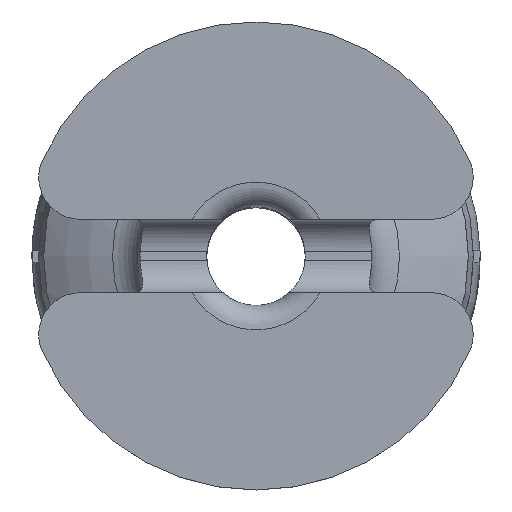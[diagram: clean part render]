
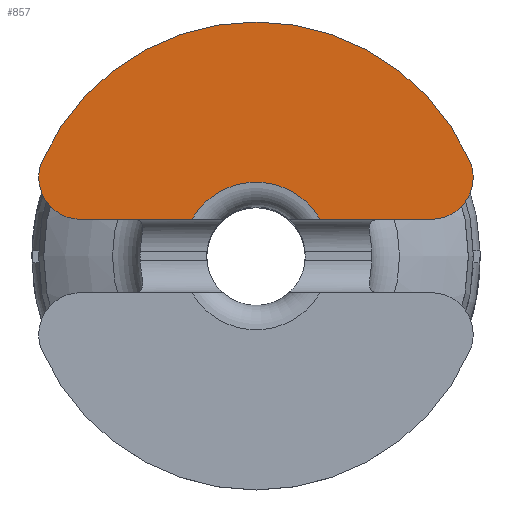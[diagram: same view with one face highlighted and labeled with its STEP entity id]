
A CAD part, top view. The second image highlights one B-rep face of the part: STEP entity #857.
In plain terms, the highlighted planar face has unit normal (0, 0, 1).
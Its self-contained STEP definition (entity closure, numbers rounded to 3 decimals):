
#789=CARTESIAN_POINT('',(0.,0.,-47.57));
#790=DIRECTION('',(0.,0.,-1.));
#791=DIRECTION('',(0.,1.,0.));
#792=AXIS2_PLACEMENT_3D('',#789,#790,#791);
#793=PLANE('',#792);
#794=CARTESIAN_POINT('',(-7.118,744.989,-47.57));
#795=VERTEX_POINT('',#794);
#796=CARTESIAN_POINT('',(-2.604,744.989,-47.57));
#797=VERTEX_POINT('',#796);
#798=CARTESIAN_POINT('',(-7.118,744.989,-47.57));
#799=DIRECTION('',(1.,0.,-0.));
#800=VECTOR('',#799,4.514);
#801=LINE('',#798,#800);
#802=EDGE_CURVE('',#795,#797,#801,.T.);
#803=ORIENTED_EDGE('',*,*,#802,.T.);
#804=CARTESIAN_POINT('',(2.604,744.989,-47.57));
#805=VERTEX_POINT('',#804);
#806=CARTESIAN_POINT('',(-0.,743.5,-47.57));
#807=DIRECTION('',(0.,0.,-1.));
#808=DIRECTION('',(-1.,0.,0.));
#809=AXIS2_PLACEMENT_3D('',#806,#807,#808);
#810=CIRCLE('',#809,3.);
#811=EDGE_CURVE('',#797,#805,#810,.T.);
#812=ORIENTED_EDGE('',*,*,#811,.T.);
#813=CARTESIAN_POINT('',(7.118,744.989,-47.57));
#814=VERTEX_POINT('',#813);
#815=CARTESIAN_POINT('',(2.604,744.989,-47.57));
#816=DIRECTION('',(1.,0.,-0.));
#817=VECTOR('',#816,4.514);
#818=LINE('',#815,#817);
#819=EDGE_CURVE('',#805,#814,#818,.T.);
#820=ORIENTED_EDGE('',*,*,#819,.T.);
#821=CARTESIAN_POINT('',(8.818,746.689,-47.57));
#822=VERTEX_POINT('',#821);
#823=CARTESIAN_POINT('',(7.118,746.689,-47.57));
#824=DIRECTION('',(-0.,-0.,1.));
#825=DIRECTION('',(-1.,0.,0.));
#826=AXIS2_PLACEMENT_3D('',#823,#824,#825);
#827=CIRCLE('',#826,1.7);
#828=EDGE_CURVE('',#814,#822,#827,.T.);
#829=ORIENTED_EDGE('',*,*,#828,.T.);
#830=CARTESIAN_POINT('',(8.67,747.385,-47.57));
#831=VERTEX_POINT('',#830);
#832=CARTESIAN_POINT('',(7.118,746.689,-47.57));
#833=DIRECTION('',(-0.,-0.,1.));
#834=DIRECTION('',(-1.,0.,0.));
#835=AXIS2_PLACEMENT_3D('',#832,#833,#834);
#836=CIRCLE('',#835,1.7);
#837=EDGE_CURVE('',#822,#831,#836,.T.);
#838=ORIENTED_EDGE('',*,*,#837,.T.);
#839=CARTESIAN_POINT('',(-8.67,747.385,-47.57));
#840=VERTEX_POINT('',#839);
#841=CARTESIAN_POINT('',(0.,743.5,-47.57));
#842=DIRECTION('',(0.,0.,-1.));
#843=DIRECTION('',(-0.,1.,0.));
#844=AXIS2_PLACEMENT_3D('',#841,#842,#843);
#845=CIRCLE('',#844,9.5);
#846=EDGE_CURVE('',#840,#831,#845,.T.);
#847=ORIENTED_EDGE('',*,*,#846,.F.);
#848=CARTESIAN_POINT('',(-7.118,746.689,-47.57));
#849=DIRECTION('',(-0.,-0.,1.));
#850=DIRECTION('',(-1.,0.,0.));
#851=AXIS2_PLACEMENT_3D('',#848,#849,#850);
#852=CIRCLE('',#851,1.7);
#853=EDGE_CURVE('',#840,#795,#852,.T.);
#854=ORIENTED_EDGE('',*,*,#853,.T.);
#855=EDGE_LOOP('',(#803,#812,#820,#829,#838,#847,#854));
#856=FACE_BOUND('',#855,.T.);
#857=ADVANCED_FACE('',(#856),#793,.F.);
